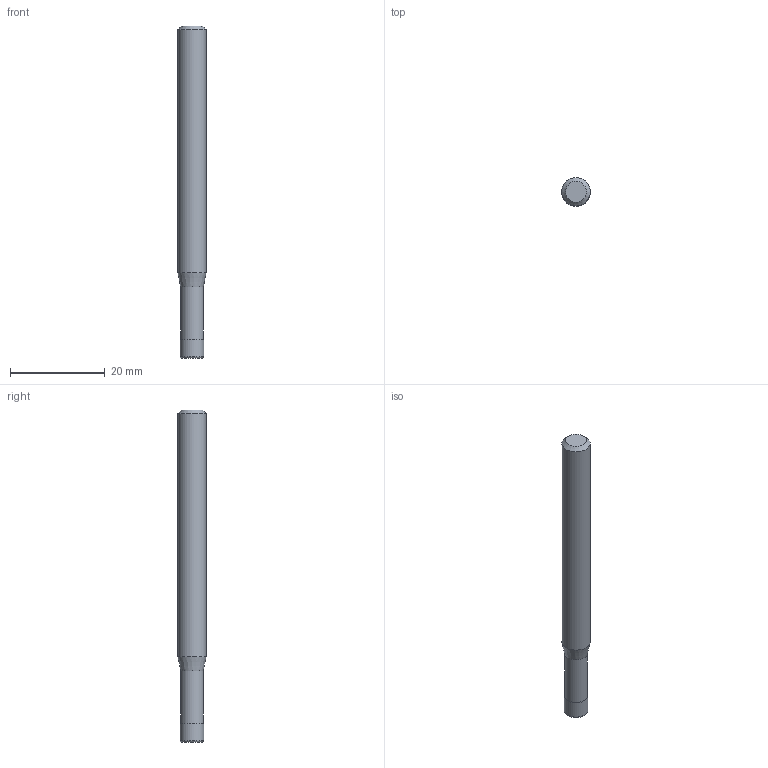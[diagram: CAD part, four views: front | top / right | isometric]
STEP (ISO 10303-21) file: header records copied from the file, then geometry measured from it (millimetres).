
FILE_DESCRIPTION((''),'2;1');
FILE_NAME('C:\Users\nsx150\AppData\Local\Temp\Mastercam 2021\3SYKECWX22\TEMP.step','2021-04-22T09:52:04',(''),(''),'STEP Write','Mastercam 2021 ... CNC Software, Inc.','');
FILE_SCHEMA(('AUTOMOTIVE_DESIGN'));
Length unit declared in the file: millimetre
Products named in the file (1): None
Bounding box: 6 x 6 x 70 mm (x, y, z)
Volume: 1806.6 mm3; surface area: 1332.6 mm2
Topology: 2 solids, 2 shells, 10 faces, 14 edges, 8 vertices
Faces by surface type: plane 4, cylinder 3, cone 2, torus 1
Full cylindrical faces by diameter (mm): 4.75 x1, 5 x1, 6 x1
Entity records: 232 total; most frequent: DIRECTION 40, CARTESIAN_POINT 28, AXIS2_PLACEMENT_3D 20, ORIENTED_EDGE 16, EDGE_LOOP 16, STYLED_ITEM 13, ADVANCED_FACE 10, FACE_BOUND 10
